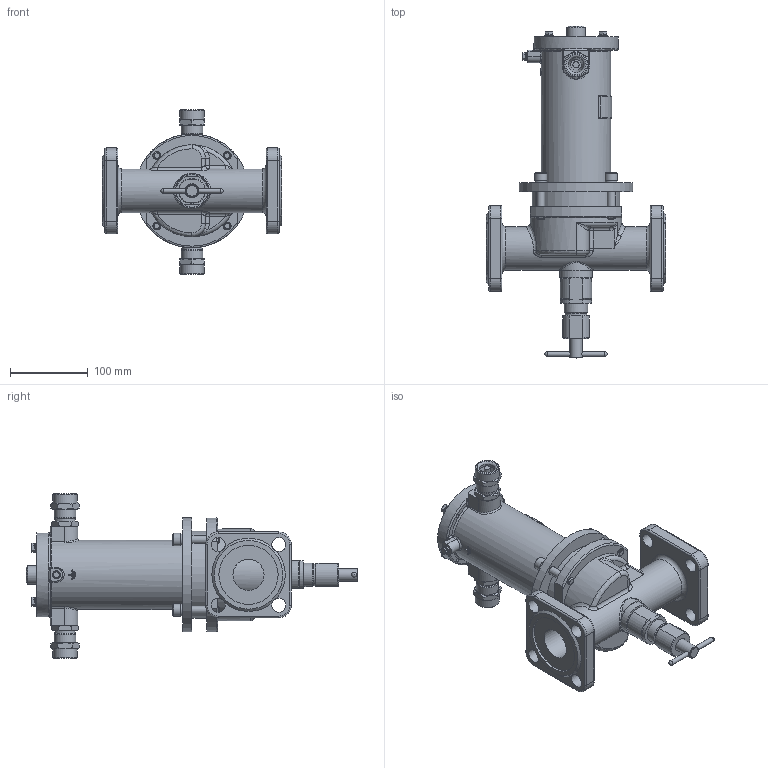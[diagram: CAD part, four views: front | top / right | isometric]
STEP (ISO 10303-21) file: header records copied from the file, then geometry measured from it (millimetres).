
FILE_DESCRIPTION(('STEP AP203'), '1');
FILE_NAME('ÑÅÍÑ DN40PN25-Â-ÍÎ-ÑÂ.stp', '2018-09-19T08:52:10', ('Îðëîâ Å.Â.'), ('ÎÎÎ ÍÏÏ Ñåíñîð'), 'ASCON STEP Converter 1.3', 'Kompas 3D', '');
FILE_SCHEMA(('CONFIG_CONTROL_DESIGN','SUPPORT_RESOURCE_SCHEMA'));
Length unit declared in the file: millimetre
Products named in the file (1): 84
Bounding box: 230 x 426 x 211 mm (x, y, z)
Volume: 1669849.5 mm3; surface area: 405751.4 mm2
Topology: 2 solids, 19 shells, 1981 faces, 5254 edges, 3391 vertices
Faces by surface type: cylinder 1010, plane 727, cone 127, torus 50, bspline 47, extrusion 16, sphere 4
Full cylindrical faces by diameter (mm): 3.5 x2, 4.134 x1, 4.917 x4, 5 x1, 6 x10, 6.5 x4, 8 x8, 10 x9, 11 x4, 12 x4, 13 x2, 16 x6, 17 x2, 18 x9, 20 x5, 22 x2, 22.376 x2, 23 x1, 23.5 x2, 24 x3, 24.5 x2, 26 x4, 26.376 x2, 27.8 x1, 28 x3, 28.5 x2, 30 x2, 31 x2, 40 x2, 42 x1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
Entity records: 76956 total; most frequent: CARTESIAN_POINT 26659, DIRECTION 10919, ORIENTED_EDGE 10450, EDGE_CURVE 5225, AXIS2_PLACEMENT_3D 4194, VERTEX_POINT 3391, VECTOR 2531, LINE 2515
